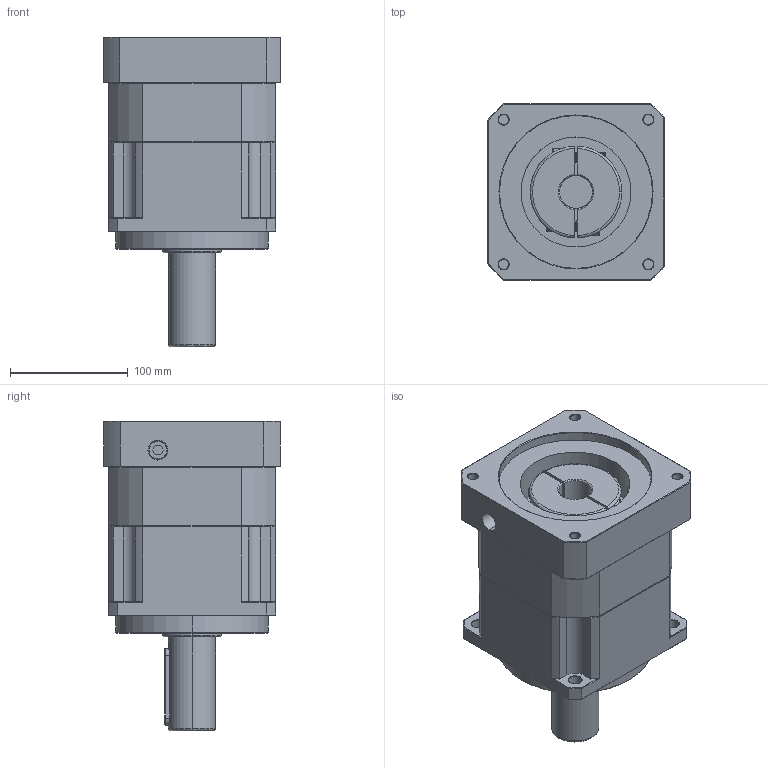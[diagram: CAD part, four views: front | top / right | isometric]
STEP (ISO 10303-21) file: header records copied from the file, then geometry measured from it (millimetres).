
FILE_DESCRIPTION (( 'STEP AP214' ), '1' );
FILE_NAME ('ZPB142-L1-P1-S2-28-130-174-M10.step', '2024-07-05T00:16:08', ( 'Windows 蚚誧' ), ( 'Organization' ), 'SwSTEP 2.0', 'SolidWorks 2016', '' );
FILE_SCHEMA (( 'AUTOMOTIVE_DESIGN' ));
Length unit declared in the file: millimetre
Products named in the file (1): ZPB142-L1-P1-S2-28-130-174-M10
Bounding box: 150 x 150 x 263.5 mm (x, y, z)
Surface area: 207358.8 mm2 (no closed solid volume)
Topology: 0 solids, 37 shells, 1769 faces, 4724 edges, 3030 vertices
Faces by surface type: plane 912, bspline 383, cone 263, cylinder 211
Full cylindrical faces by diameter (mm): 14 x1
Entity records: 99890 total; most frequent: CARTESIAN_POINT 50502, ORIENTED_EDGE 9423, DIRECTION 7228, EDGE_CURVE 4723, LINE 3138, VECTOR 3138, VERTEX_POINT 3030, AXIS2_PLACEMENT_3D 2045
